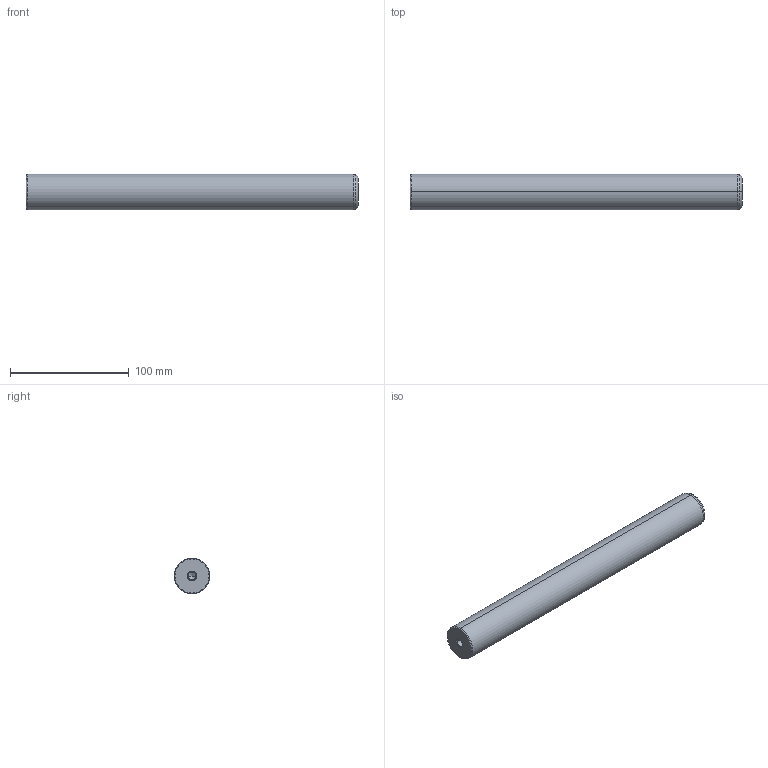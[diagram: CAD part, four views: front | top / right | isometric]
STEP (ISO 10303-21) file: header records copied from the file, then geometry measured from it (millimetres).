
FILE_DESCRIPTION(('CATIA V5 STEP Exchange'),'2;1');
FILE_NAME('C:\Users\Utente\Desktop\IO LAVORO\3D X SITO CF\X SITO\720\720-30x280.stp','2021-01-01T12:29:19+00:00',('none'),('none'),'CATIA Version 5 Release 20 GA (IN-10)','CATIA V5 STEP AP203','none');
FILE_SCHEMA(('CONFIG_CONTROL_DESIGN'));
Length unit declared in the file: millimetre
Products named in the file (1): 720-30x280
Bounding box: 280 x 30 x 30 mm (x, y, z)
Volume: 195889.5 mm3; surface area: 28600.1 mm2
Topology: 1 solids, 1 shells, 22 faces, 56 edges, 34 vertices
Faces by surface type: cone 12, cylinder 6, plane 2, torus 2
Entity records: 755 total; most frequent: CARTESIAN_POINT 216, ORIENTED_EDGE 104, DIRECTION 89, EDGE_CURVE 52, AXIS2_PLACEMENT_3D 50, VERTEX_POINT 34, CIRCLE 27, EDGE_LOOP 24
